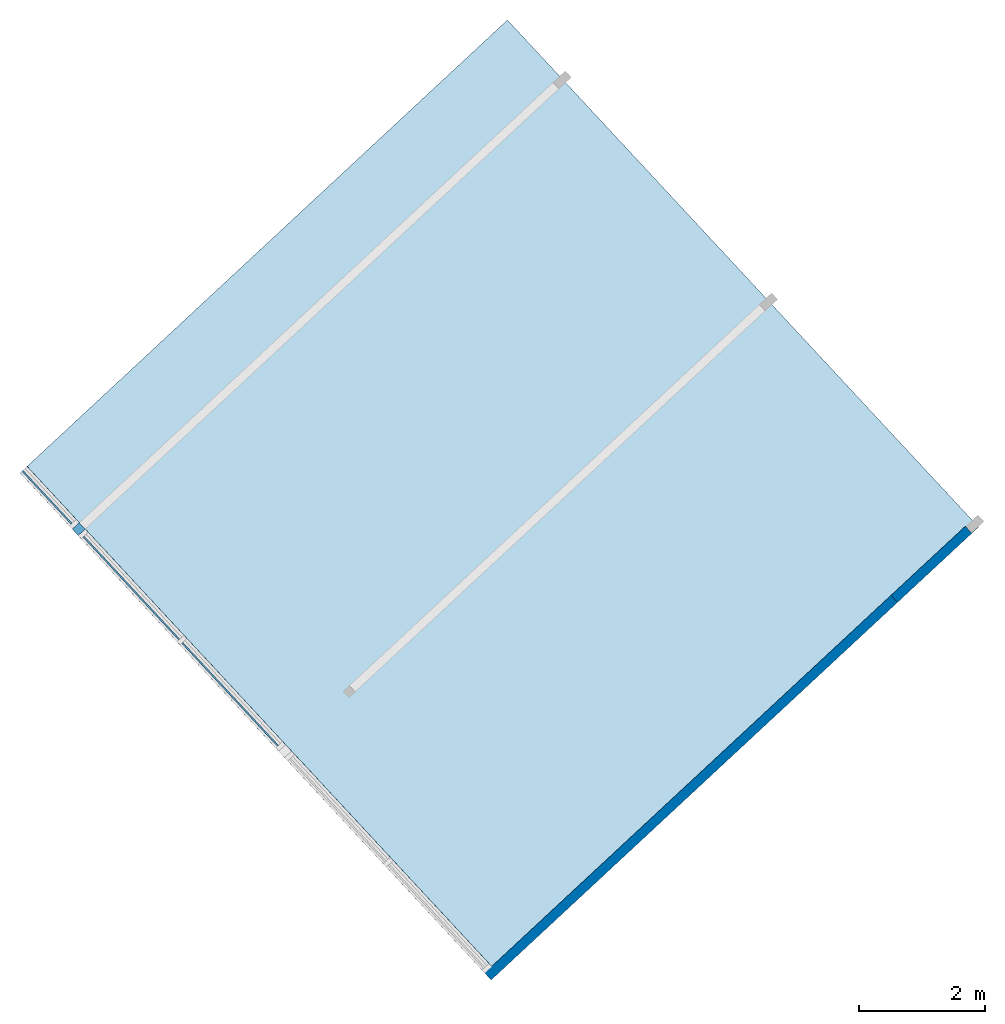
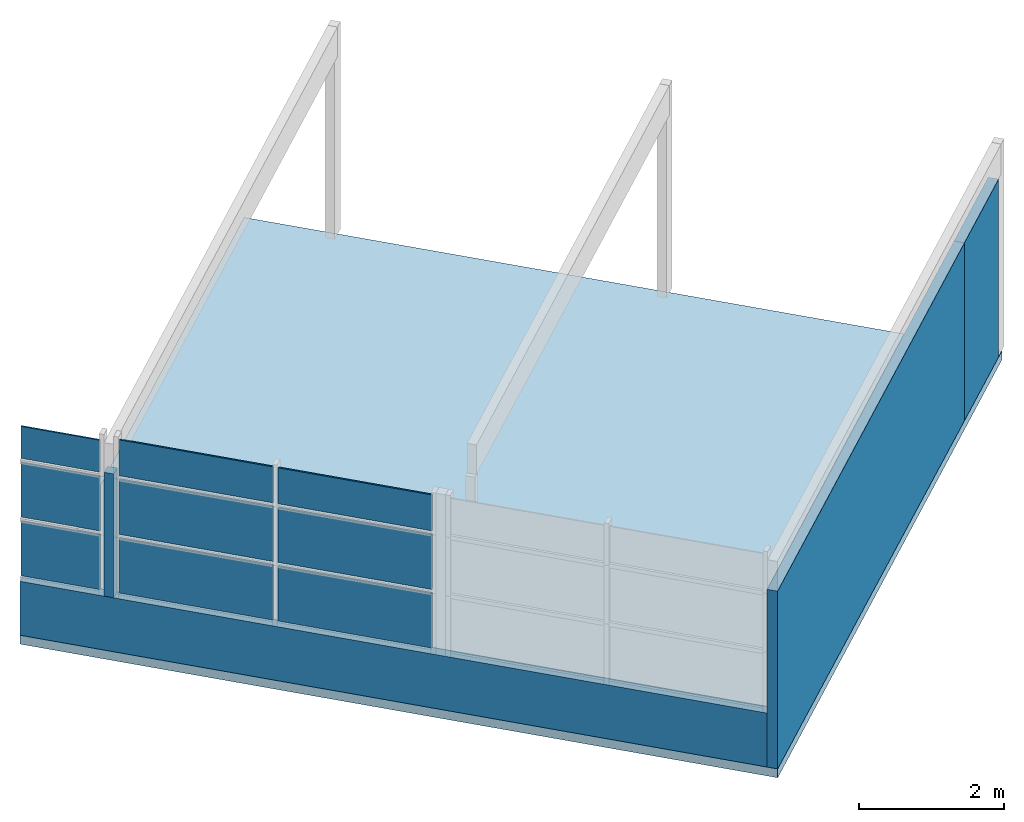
# One storey, part 2 of 3: 10 plates, 3 walls, 1 slab, 1 element without a shape of its own.
"""IFC2X3 building model written with IfcOpenShell, lengths in millimetres."""

from ifc_helpers import new_model, entity, si_unit, converted_unit, derived_unit, direction, frame, frame_2d, origin, origin_with_axes, origin_2d_with_axis, place, context, subcontext, project, spatial, polyline, rectangle, extrude, clip, bounded_halfspace, faceted_brep, source, transform, mapped, material, layer, layer_set, layer_usage, type_object, element, aggregate, save


model = new_model("IFC2X3")

# Units and contexts
model_context = context("Model", 3, precision=0.01, world=origin(), true_north=direction((6.12323399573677e-17, 1.0)))
plan_context = context("Plan", 3, precision=1e-05, world=origin_with_axes())
body_context = subcontext(model_context, "Body", "Model", "MODEL_VIEW")
ifc_project = project(units=[converted_unit("PLANEANGLEUNIT", "DEGREE", entity("IfcPositiveLengthMeasure", 0.0174532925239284), si_unit("PLANEANGLEUNIT", "RADIAN"), dimensions=[0, 0, 0, 0, 0, 0, 0]), si_unit("AREAUNIT", "SQUARE_METRE"), si_unit("LENGTHUNIT", "METRE", prefix="MILLI"), si_unit("MASSUNIT", "GRAM", prefix="KILO"), si_unit("POWERUNIT", "WATT"), si_unit("PRESSUREUNIT", "PASCAL", prefix="KILO"), si_unit("FORCEUNIT", "NEWTON", prefix="KILO"), si_unit("ELECTRICVOLTAGEUNIT", "VOLT"), si_unit("ELECTRICCURRENTUNIT", "AMPERE"), si_unit("THERMODYNAMICTEMPERATUREUNIT", "DEGREE_CELSIUS"), si_unit("TIMEUNIT", "SECOND"), si_unit("VOLUMEUNIT", "CUBIC_METRE"), derived_unit("LINEARVELOCITYUNIT", [(si_unit("LENGTHUNIT", "METRE"), 1), (si_unit("TIMEUNIT", "SECOND"), -1)]), derived_unit("VOLUMETRICFLOWRATEUNIT", [(si_unit("VOLUMEUNIT", "CUBIC_METRE"), 1), (si_unit("TIMEUNIT", "SECOND"), -1)]), derived_unit("THERMALTRANSMITTANCEUNIT", [(si_unit("POWERUNIT", "WATT"), 1), (si_unit("THERMODYNAMICTEMPERATUREUNIT", "KELVIN"), -1), (si_unit("AREAUNIT", "SQUARE_METRE"), -1)]), derived_unit("SOUNDPRESSUREUNIT", [(si_unit("PRESSUREUNIT", "PASCAL"), 1)])], contexts=[model_context, plan_context])

# Site, building, storey
site_placement = place(None, frame((159880.25068742, 140851.808625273, 0.0), z_axis=(0.0, 0.0, 1.0), x_axis=(-0.680735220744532, 0.732529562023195, 0.0)))
site = spatial("IfcSite", under=ifc_project, at=site_placement, Name="Default", CompositionType="ELEMENT")
building_placement = place(site_placement, origin_with_axes())
building = spatial("IfcBuilding", under=site, at=building_placement, CompositionType="ELEMENT")
storey_placement = place(building_placement, frame((0.0, 0.0, 4900.0), z_axis=(0.0, 0.0, 1.0), x_axis=(1.0, 0.0, 0.0)))
storey = spatial("IfcBuildingStorey", under=building, at=storey_placement, Name="001-01", CompositionType="ELEMENT", Elevation=4900.0)

# Curtain wall, plates
curtain_wall_type = type_object("IfcCurtainWallType", Name="Curtain Wall:Curtain Wall 1", PredefinedType="NOTDEFINED")
curtain_wall_placement = place(storey_placement, frame((0.0, 0.0, -4900.0), z_axis=(0.0, 0.0, 1.0), x_axis=(1.0, 0.0, 0.0)))
curtain_wall = element("IfcCurtainWall", 1, at=curtain_wall_placement, inside=storey, type_object=curtain_wall_type, Name="Curtain Wall:Curtain Wall 1", ObjectType="Curtain Wall:Curtain Wall 1")
ifc_material_1 = material(Name="Glass")
plate_type_1 = type_object("IfcPlateType", Name="System Panel:Glassfelt 25mm", PredefinedType="CURTAIN_PANEL", material=ifc_material_1)
shared_shape_1 = source(origin(), body_context, "Body", "SweptSolid", [
    extrude(rectangle(XDim=25.0, YDim=2225.00000069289, at=origin_2d_with_axis()), frame((1112.50000034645, 12.5, 0.0), z_axis=(0.0, 0.0, 1.0), x_axis=(0.0, 1.0, 0.0)), (0.0, 0.0, 1.0), 920.000000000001),
])
plate_1_placement = place(curtain_wall_placement, frame((52940.0, 30197.4999999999, 5880.0), z_axis=(0.0, 0.0, 1.0), x_axis=(1.0, 0.0, 0.0)))
plate_1 = element("IfcPlate", 2, at=plate_1_placement, type_object=plate_type_1, material=ifc_material_1, Name="System Panel:Glassfelt 25mm", ObjectType="System Panel:Glassfelt 25mm", context=body_context, shape_type="MappedRepresentation", body=[
    mapped(shared_shape_1, transform((0.0, 0.0, 0.0), scale=1.0)),
])
plate_2_placement = place(curtain_wall_placement, frame((55235.0, 30197.4999999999, 5880.0), z_axis=(0.0, 0.0, 1.0), x_axis=(1.0, 0.0, 0.0)))
plate_2 = element("IfcPlate", 3, at=plate_2_placement, type_object=plate_type_1, material=ifc_material_1, Name="System Panel:Glassfelt 25mm", ObjectType="System Panel:Glassfelt 25mm", context=body_context, shape_type="MappedRepresentation", body=[
    mapped(shared_shape_1, transform((0.0, 0.0, 0.0), scale=1.0)),
])
plate_3_placement = place(curtain_wall_placement, frame((52940.0, 30197.4999999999, 6870.0), z_axis=(0.0, 0.0, 1.0), x_axis=(1.0, 0.0, 0.0)))
plate_3 = element("IfcPlate", 4, at=plate_3_placement, type_object=plate_type_1, material=ifc_material_1, Name="System Panel:Glassfelt 25mm", ObjectType="System Panel:Glassfelt 25mm", context=body_context, shape_type="MappedRepresentation", body=[
    mapped(shared_shape_1, transform((0.0, 0.0, 0.0), scale=1.0)),
])
plate_4_placement = place(curtain_wall_placement, frame((55235.0, 30197.4999999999, 6870.0), z_axis=(0.0, 0.0, 1.0), x_axis=(1.0, 0.0, 0.0)))
plate_4 = element("IfcPlate", 5, at=plate_4_placement, type_object=plate_type_1, material=ifc_material_1, Name="System Panel:Glassfelt 25mm", ObjectType="System Panel:Glassfelt 25mm", context=body_context, shape_type="MappedRepresentation", body=[
    mapped(shared_shape_1, transform((0.0, 0.0, 0.0), scale=1.0)),
])
ifc_material_2 = material(Name="Aluminium")
plate_type_2 = type_object("IfcPlateType", Name="System Panel:Tettfelt 150mm", PredefinedType="CURTAIN_PANEL", material=ifc_material_2)
shared_shape_2 = source(origin(), body_context, "Body", "SweptSolid", [
    extrude(rectangle(XDim=2090.00000000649, YDim=140.000000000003, at=frame_2d((-237.499999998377, 0.0), x_axis=(1.0, 0.0))), frame((0.0, -75.0, 1282.50000000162), z_axis=(0.0, 1.0, 0.0), x_axis=(0.0, 0.0, 1.0)), (0.0, 0.0, 1.0), 150.0),
])
plate_5_placement = place(curtain_wall_placement, frame((57600.0000006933, 30185.0, 5810.0), z_axis=(0.0, 0.0, 1.0), x_axis=(1.0, 0.0, 0.0)))
plate_5 = element("IfcPlate", 6, at=plate_5_placement, type_object=plate_type_2, material=ifc_material_2, Name="System Panel:Tettfelt 150mm", ObjectType="System Panel:Tettfelt 150mm", context=body_context, shape_type="MappedRepresentation", body=[
    mapped(shared_shape_2, transform((0.0, 0.0, 0.0), scale=1.0)),
])
plate_type_3 = type_object("IfcPlateType", Name="System Panel:Glassfelt 25mm", PredefinedType="CURTAIN_PANEL", material=ifc_material_1)
shared_shape_3 = source(origin(), body_context, "Body", "SweptSolid", [
    extrude(rectangle(XDim=25.0, YDim=2225.00000069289, at=origin_2d_with_axis()), frame((1112.50000034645, 12.5, 0.0), z_axis=(0.0, 0.0, 1.0), x_axis=(0.0, 1.0, 0.0)), (0.0, 0.0, 1.0), 605.0),
])
plate_6_placement = place(curtain_wall_placement, frame((52940.0, 30197.4999999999, 7860.0), z_axis=(0.0, 0.0, 1.0), x_axis=(1.0, 0.0, 0.0)))
plate_6 = element("IfcPlate", 7, at=plate_6_placement, type_object=plate_type_3, material=ifc_material_1, Name="System Panel:Glassfelt 25mm", ObjectType="System Panel:Glassfelt 25mm", context=body_context, shape_type="MappedRepresentation", body=[
    mapped(shared_shape_3, transform((0.0, 0.0, 0.0), scale=1.0)),
])
plate_7_placement = place(curtain_wall_placement, frame((55235.0, 30197.4999999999, 7860.0), z_axis=(0.0, 0.0, 1.0), x_axis=(1.0, 0.0, 0.0)))
plate_7 = element("IfcPlate", 8, at=plate_7_placement, type_object=plate_type_3, material=ifc_material_1, Name="System Panel:Glassfelt 25mm", ObjectType="System Panel:Glassfelt 25mm", context=body_context, shape_type="MappedRepresentation", body=[
    mapped(shared_shape_3, transform((0.0, 0.0, 0.0), scale=1.0)),
])
plate_8_placement = place(curtain_wall_placement, frame((57740.0, 30197.4999999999, 6870.0), z_axis=(0.0, 0.0, 1.0), x_axis=(1.0, 0.0, 0.0)))
plate_8 = element("IfcPlate", 9, at=plate_8_placement, type_object=plate_type_1, Name="System Panel:Glassfelt 25mm", ObjectType="System Panel:Glassfelt 25mm", context=body_context, shape_type="Brep", body=[
    faceted_brep([(1144.86358821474, 0.0, 920.000000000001), (1144.86358821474, 0.0, 0.0), (-2.27373675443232e-13, 0.0, 0.0), (-2.27373675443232e-13, 0.0, 920.000000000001), (1144.86358821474, 25.0, 0.0), (1144.86358821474, 25.0, 920.000000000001), (-2.27373675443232e-13, 25.0, 920.000000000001), (-2.27373675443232e-13, 25.0, 0.0)], [[[0, 1, 2, 3]], [[4, 5, 6, 7]], [[7, 6, 3, 2]], [[1, 4, 7, 2]], [[5, 0, 3, 6]], [[5, 4, 1, 0]]], orient=[[False], [False], [False], [False], [False], [False]]),
])
plate_9_placement = place(curtain_wall_placement, frame((57740.0, 30197.4999999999, 5880.0), z_axis=(0.0, 0.0, 1.0), x_axis=(1.0, 0.0, 0.0)))
plate_9 = element("IfcPlate", 10, at=plate_9_placement, type_object=plate_type_1, Name="System Panel:Glassfelt 25mm", ObjectType="System Panel:Glassfelt 25mm", context=body_context, shape_type="Brep", body=[
    faceted_brep([(1144.86358821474, 0.0, 920.000000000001), (1144.86358821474, 0.0, 0.0), (-2.27373675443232e-13, 0.0, 0.0), (-2.27373675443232e-13, 0.0, 920.000000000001), (1144.86358821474, 25.0, 0.0), (1144.86358821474, 25.0, 920.000000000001), (-2.27373675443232e-13, 25.0, 920.000000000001), (-2.27373675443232e-13, 25.0, 0.0)], [[[0, 1, 2, 3]], [[4, 5, 6, 7]], [[7, 6, 3, 2]], [[1, 4, 7, 2]], [[5, 0, 3, 6]], [[5, 4, 1, 0]]], orient=[[False], [False], [False], [False], [False], [False]]),
])
plate_10_placement = place(curtain_wall_placement, frame((57740.0, 30197.4999999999, 7860.0), z_axis=(0.0, 0.0, 1.0), x_axis=(1.0, 0.0, 0.0)))
plate_10 = element("IfcPlate", 11, at=plate_10_placement, type_object=plate_type_3, Name="System Panel:Glassfelt 25mm", ObjectType="System Panel:Glassfelt 25mm", context=body_context, shape_type="Brep", body=[
    faceted_brep([(-2.27373675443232e-13, 0.0, 540.0), (1144.86358821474, -1.02318153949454e-12, 540.0), (1144.86358821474, 0.0, 0.0), (-2.27373675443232e-13, 0.0, 0.0), (1144.86358821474, 25.0, 0.0), (1144.86358821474, 24.9999999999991, 540.0), (-2.27373675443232e-13, 25.0, 540.0), (-2.27373675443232e-13, 25.0, 0.0)], [[[0, 1, 2, 3]], [[4, 5, 6, 7]], [[6, 0, 3, 7]], [[2, 4, 7, 3]], [[5, 4, 2, 1]], [[1, 0, 6, 5]]], orient=[[False], [False], [False], [False], [False], [False]]),
])
aggregate(curtain_wall, [plate_1, plate_2, plate_5, plate_3, plate_4, plate_6, plate_7, plate_10, plate_8, plate_9])

# Slab
ifc_material_3 = material(Name="Betong - Plasstøpt")
ifc_layer_1 = layer(ifc_material_3, 150.0)
ifc_layer_set_1 = layer_set([ifc_layer_1], Name="Floor:Betong Plasstøpt 150mm")
slab_type = type_object("IfcSlabType", Name="Floor:Betong Plasstøpt 150mm", PredefinedType="FLOOR", material=ifc_layer_set_1)
slab_placement = place(storey_placement, origin_with_axes())
element("IfcSlab", 12, at=slab_placement, inside=storey, type_object=slab_type, Name="Floor:Betong Plasstøpt 150mm", ObjectType="Floor:Betong Plasstøpt 150mm", PredefinedType="FLOOR", context=body_context, shape_type="Brep", body=[
    faceted_brep([(47924.0000000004, 19723.9999999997, -1.13686837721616e-13), (47924.0000000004, 30260.9999999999, -1.13686837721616e-13), (58884.8635882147, 30260.9999999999, -1.13686837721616e-13), (58884.8635882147, 19723.9999999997, -1.13686837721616e-13), (47924.0000000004, 30260.9999999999, -150.0), (47924.0000000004, 19723.9999999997, -150.0), (58884.8635882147, 19723.9999999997, -150.0), (58884.8635882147, 30260.9999999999, -150.0)], [[[0, 1, 2, 3]], [[4, 5, 6, 7]], [[3, 2, 7, 6]], [[2, 1, 4, 7]], [[1, 0, 5, 4]], [[0, 3, 6, 5]]], orient=[[False], [False], [False], [False], [False], [False]]),
])

# Walls
ifc_material_4 = material(Name="Gips")
ifc_layer_2 = layer(ifc_material_4, 13.0)
ifc_layer_3 = layer(ifc_material_4, 13.0)
ifc_material_5 = material(Name="Isolasjon")
ifc_layer_4 = layer(ifc_material_5, 100.0)
ifc_layer_5 = layer(ifc_material_4, 13.0)
ifc_layer_6 = layer(ifc_material_4, 13.0)
ifc_layer_set_2 = layer_set([ifc_layer_2, ifc_layer_3, ifc_layer_4, ifc_layer_5, ifc_layer_6], Name="Basic Wall:Innervegg - 100mm Stender 2+2 Gips")
wall_type_1 = type_object("IfcWallType", Name="Basic Wall:Innervegg - 100mm Stender 2+2 Gips", PredefinedType="STANDARD", material=ifc_layer_set_2)
wall_1_placement = place(storey_placement, frame((48074.0, 30185.0, 0.0), z_axis=(0.0, 0.0, 1.0), x_axis=(1.0, 0.0, 0.0)))
element("IfcWall", 13, at=wall_1_placement, inside=storey, type_object=wall_type_1, Name="Basic Wall:Innervegg - 100mm Stender 2+2 Gips", ObjectType="Basic Wall:Innervegg - 100mm Stender 2+2 Gips", context=body_context, shape_type="Brep", body=[
    faceted_brep([(10810.8635882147, 76.0, 0.0), (10810.8635882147, 76.0, 910.000000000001), (1.81898940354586e-12, 76.0, 910.000000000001), (1.81898940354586e-12, 76.0, 0.0), (1.81898940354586e-12, -76.0, 910.000000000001), (1.81898940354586e-12, -76.0, 0.0), (10810.8635882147, -76.0, 910.000000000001), (10810.8635882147, -76.0, 0.0)], [[[0, 1, 2, 3]], [[3, 2, 4, 5]], [[6, 7, 5, 4]], [[7, 0, 3, 5]], [[1, 6, 4, 2]], [[7, 6, 1, 0]]], orient=[[False], [False], [False], [False], [False], [False]]),
])
wall_2_placement = place(storey_placement, frame((48000.0, 21477.0, 0.0), z_axis=(0.0, 0.0, 1.0), x_axis=(0.0, 1.0, 0.0)))
element("IfcWall", 14, at=wall_2_placement, inside=storey, type_object=wall_type_1, Name="Basic Wall:Innervegg - 100mm Stender 2+2 Gips", ObjectType="Basic Wall:Innervegg - 100mm Stender 2+2 Gips", context=body_context, shape_type="Brep", body=[
    faceted_brep([(8783.99999999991, 76.0000000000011, 0.0), (8783.99999999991, 76.0000000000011, 3000.00000000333), (0.0, 76.0000000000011, 3000.00000000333), (0.0, 76.0000000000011, 0.0), (0.0, -75.999999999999, 3000.00000000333), (0.0, -75.999999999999, 0.0), (8783.99999999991, -75.999999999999, 3000.00000000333), (8783.99999999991, -75.999999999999, 0.0)], [[[0, 1, 2, 3]], [[3, 2, 4, 5]], [[6, 7, 5, 4]], [[7, 0, 3, 5]], [[1, 6, 4, 2]], [[7, 6, 1, 0]]], orient=[[False], [False], [False], [False], [False], [False]]),
])
ifc_layer_7 = layer(ifc_material_4, 13.0)
ifc_layer_8 = layer(ifc_material_4, 13.0)
ifc_layer_9 = layer(ifc_material_5, 100.0)
ifc_layer_10 = layer(ifc_material_4, 13.0)
ifc_layer_11 = layer(ifc_material_4, 13.0)
ifc_layer_set_3 = layer_set([ifc_layer_7, ifc_layer_8, ifc_layer_9, ifc_layer_10, ifc_layer_11], Name="Basic Wall:Innervegg - 100mm Stender 2+2 Gips (eksisterende)")
ifc_layer_usage = layer_usage(ifc_layer_set_3, "AXIS2", "NEGATIVE", 76.0)
wall_type_2 = type_object("IfcWallType", Name="Basic Wall:Innervegg - 100mm Stender 2+2 Gips (eksisterende)", PredefinedType="STANDARD", material=ifc_layer_set_3)
wall_3_placement = place(storey_placement, frame((48000.0, 19868.4999999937, 0.0), z_axis=(0.0, 0.0, 1.0), x_axis=(0.0, 1.0, 0.0)))
element("IfcWallStandardCase", 15, at=wall_3_placement, inside=storey, type_object=wall_type_2, material=ifc_layer_usage, Name="Basic Wall:Innervegg - 100mm Stender 2+2 Gips (eksisterende)", ObjectType="Basic Wall:Innervegg - 100mm Stender 2+2 Gips (eksisterende)", context=body_context, shape_type="Clipping", body=[
    clip(extrude(rectangle(XDim=1608.50000000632, YDim=152.0, at=frame_2d((804.250000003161, 9.66338120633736e-13), x_axis=(-1.0, 0.0))), origin(), (0.0, 0.0, 1.0), 3000.00000000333), bounded_halfspace(frame((1608.50000000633, -76.0, 3000.0), z_axis=(-1.0, 0.0, 0.0), x_axis=(0.0, 1.0, 0.0)), True, frame((1608.50000000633, -76.0, 3000.0), z_axis=(-1.0, 0.0, 0.0), x_axis=(0.0, 1.0, 0.0)), polyline([(0.0, 0.0), (152.0, 0.0), (152.0, 3000.0), (0.0, 3000.0), (0.0, 0.0)]))),
])

save(model, "model.ifc")
